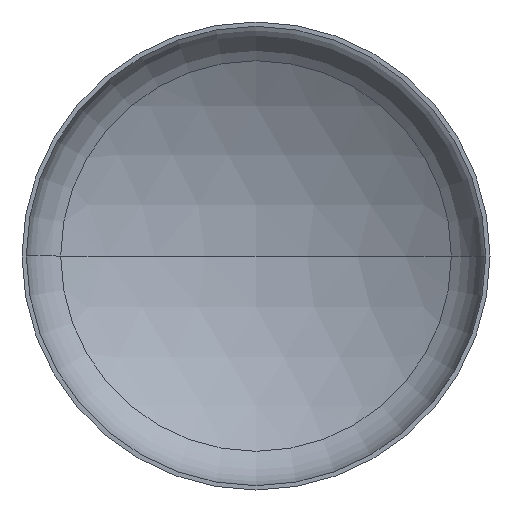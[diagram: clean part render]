
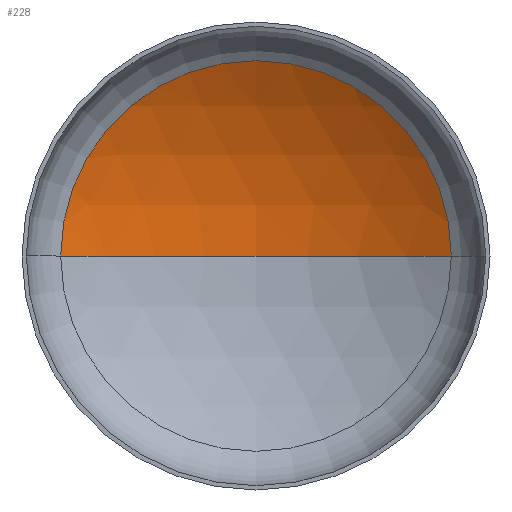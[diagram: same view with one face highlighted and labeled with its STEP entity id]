
A CAD part, front view. The second image highlights one B-rep face of the part: STEP entity #228.
In plain terms, the highlighted spherical face has radius 1200 mm.
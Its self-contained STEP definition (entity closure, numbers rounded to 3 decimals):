
#10 = EDGE_LOOP ( 'NONE', ( #83, #77, #34 ) ) ;
#31 = VERTEX_POINT ( 'NONE', #275 ) ;
#34 = ORIENTED_EDGE ( 'NONE', *, *, #171, .T. ) ;
#42 = CARTESIAN_POINT ( 'NONE',  ( 0., -782.565, 0. ) ) ;
#53 = FACE_OUTER_BOUND ( 'NONE', #10, .T. ) ;
#64 = AXIS2_PLACEMENT_3D ( 'NONE', #42, #155, #164 ) ;
#65 = DIRECTION ( 'NONE',  ( 1., 0., 0. ) ) ;
#70 = VERTEX_POINT ( 'NONE', #243 ) ;
#77 = ORIENTED_EDGE ( 'NONE', *, *, #173, .T. ) ;
#83 = ORIENTED_EDGE ( 'NONE', *, *, #176, .F. ) ;
#117 = AXIS2_PLACEMENT_3D ( 'NONE', #139, #320, #65 ) ;
#120 = AXIS2_PLACEMENT_3D ( 'NONE', #174, #175, #184 ) ;
#123 = AXIS2_PLACEMENT_3D ( 'NONE', #213, #217, #200 ) ;
#128 = CIRCLE ( 'NONE', #123, 625.979 ) ;
#139 = CARTESIAN_POINT ( 'NONE',  ( 0., -782.565, 0. ) ) ;
#155 = DIRECTION ( 'NONE',  ( 0., 0., -1. ) ) ;
#160 = VERTEX_POINT ( 'NONE', #317 ) ;
#164 = DIRECTION ( 'NONE',  ( -1., 0., 0. ) ) ;
#171 = EDGE_CURVE ( 'NONE', #31, #70, #128, .T. ) ;
#173 = EDGE_CURVE ( 'NONE', #160, #31, #387, .T. ) ;
#174 = CARTESIAN_POINT ( 'NONE',  ( 0., -782.565, 0. ) ) ;
#175 = DIRECTION ( 'NONE',  ( 0., 0., -1. ) ) ;
#176 = EDGE_CURVE ( 'NONE', #160, #70, #269, .T. ) ;
#184 = DIRECTION ( 'NONE',  ( -1., 0., 0. ) ) ;
#200 = DIRECTION ( 'NONE',  ( 1., 0., 0. ) ) ;
#213 = CARTESIAN_POINT ( 'NONE',  ( 0., 241.227, 0. ) ) ;
#217 = DIRECTION ( 'NONE',  ( 0., -1., 0. ) ) ;
#228 = ADVANCED_FACE ( 'NONE', ( #53 ), #310, .F. ) ;
#243 = CARTESIAN_POINT ( 'NONE',  ( -625.979, 241.227, 0. ) ) ;
#269 = CIRCLE ( 'NONE', #117, 1200. ) ;
#275 = CARTESIAN_POINT ( 'NONE',  ( 625.979, 241.227, 0. ) ) ;
#310 = SPHERICAL_SURFACE ( 'NONE', #64, 1200. ) ;
#317 = CARTESIAN_POINT ( 'NONE',  ( 0., 417.435, 0. ) ) ;
#320 = DIRECTION ( 'NONE',  ( 0., 0., 1. ) ) ;
#387 = CIRCLE ( 'NONE', #120, 1200. ) ;
